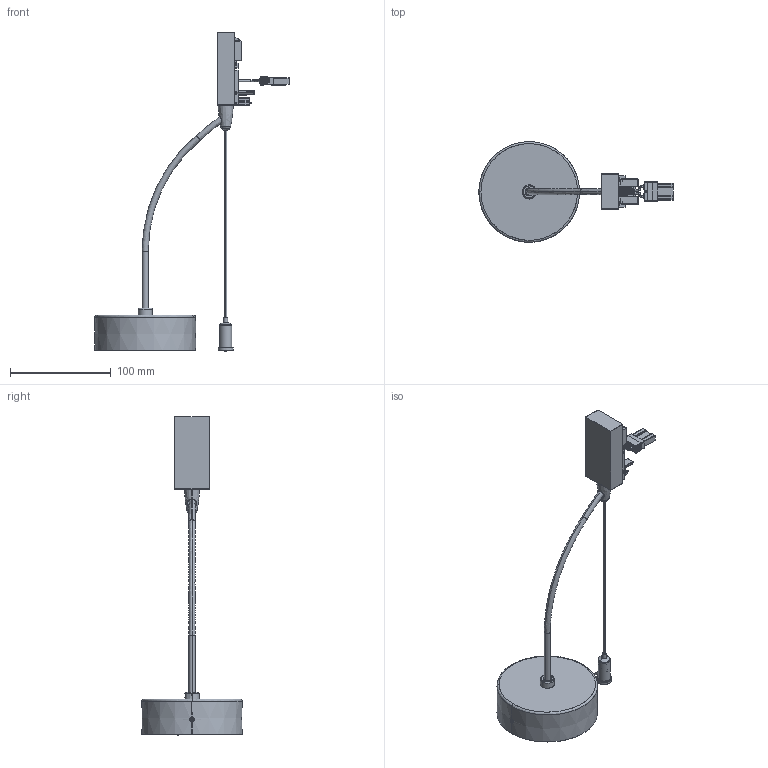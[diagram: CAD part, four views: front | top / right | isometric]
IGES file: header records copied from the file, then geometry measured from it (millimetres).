
Start section: SolidWorks IGES file using analytic representation for surfaces
Global section: file name: C:\Users\extension46\Desktop\3D-WEB\Invisible\Modular\END_CAP-AC-wire.IGS; native system: SolidWorks 2023; preprocessor: SolidWorks 2023; author: y.wang; date: 240627.085227; units: millimetre
Bounding box: 193 x 100 x 316.99 mm (x, y, z)
Surface area: 73468.8 mm2 (no closed solid volume)
Topology: 0 solids, 0 shells, 1123 faces, 9943 edges, 9885 vertices
Faces by surface type: revolution 604, bspline 519
